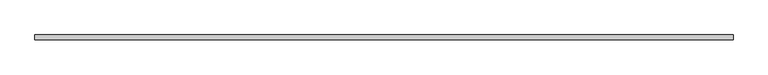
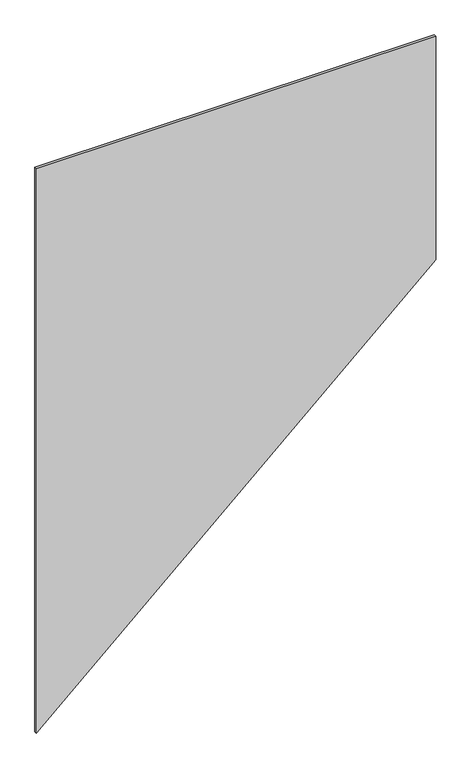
"""IFC4 building model written with IfcOpenShell, lengths in millimetres: plate geometry, 系統嵌板 : 玻璃 1.0cm."""

from ifc_helpers import new_model, si_unit, frame, origin, place, context, project, spatial, polyline, outline, extrude, source, transform, mapped, element, save


def plate_3d709b67(model_context):
    return source(origin(), model_context, "Body", "SweptSolid", [
        extrude(outline(polyline([(0.0, -750.0), (1353.1101039, 750.0), (2240.6407087, 750.0), (2240.6407087, -750.0), (0.0, -750.0)])), frame((0.0, -5.0, 0.0), z_axis=(0.0, 1.0, 0.0), x_axis=(0.0, 0.0, 1.0)), (0.0, 0.0, 1.0), 10.0),
    ])


if __name__ == "__main__":
    model = new_model("IFC4")
    model_context = context("Model", 3, world=origin())
    ifc_project = project(units=[si_unit("LENGTHUNIT", "METRE", prefix="MILLI")], contexts=[model_context])
    site = spatial("IfcSite", under=ifc_project)
    building = spatial("IfcBuilding", under=site)
    placement = place(None, origin())
    plate_shape = plate_3d709b67(model_context)
    element("IfcPlate", 1, ObjectType="系統嵌板 : 玻璃 1.0cm", at=placement, inside=building, context=model_context, shape_type="MappedRepresentation", body=[
        mapped(plate_shape, transform((0.0, 0.0, 0.0), x_axis=(1.0, 0.0, 0.0), y_axis=(0.0, 1.0, 0.0), z_axis=(0.0, 0.0, 1.0))),
    ])
    save(model, "model.ifc")
